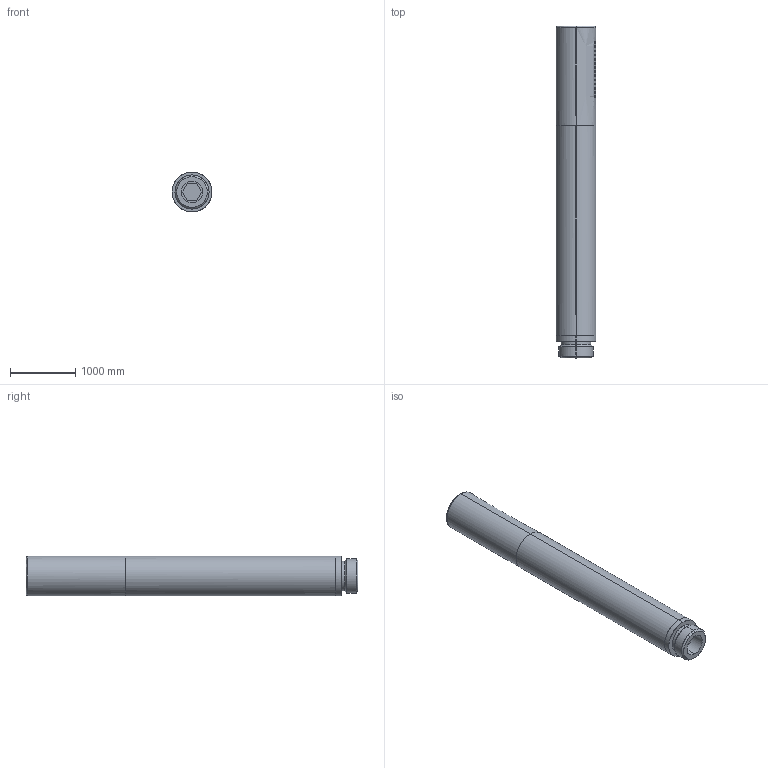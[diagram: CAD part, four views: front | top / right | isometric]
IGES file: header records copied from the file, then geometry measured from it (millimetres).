
Global section: file name: 5902539822564_igs; native system: Autodesk Inventor 2020; preprocessor: unknown; date: 20200727.140710; units: millimetre
Bounding box: 609.6 x 5080 x 609.6 mm (x, y, z)
Surface area: 10656698.2 mm2 (no closed solid volume)
Topology: 0 solids, 0 shells, 165 faces, 24522 edges, 24522 vertices
Faces by surface type: revolution 158, bspline 7
